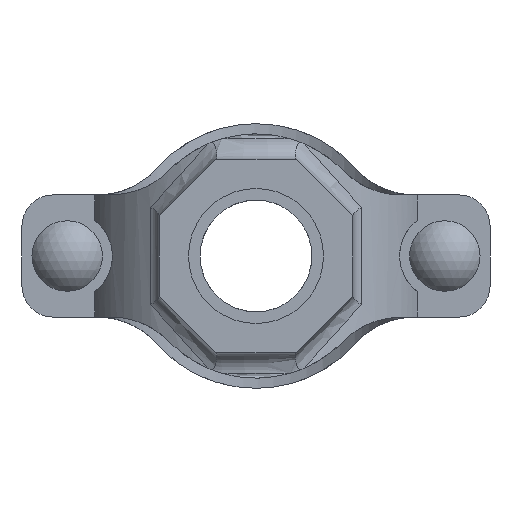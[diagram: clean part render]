
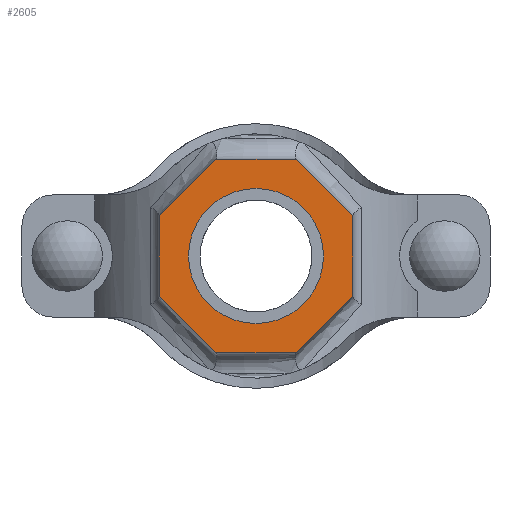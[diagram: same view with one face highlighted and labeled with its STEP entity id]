
A CAD part, front view. The second image highlights one B-rep face of the part: STEP entity #2605.
In plain terms, the highlighted planar face has unit normal (0, -1, 0) as drawn and (0, 1, 0) by its records, which use the part's own axes.
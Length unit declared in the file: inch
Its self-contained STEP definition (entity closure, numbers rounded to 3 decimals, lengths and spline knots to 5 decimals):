
#200=FACE_BOUND('',#475,.T.);
#321=FACE_OUTER_BOUND('',#474,.T.);
#474=EDGE_LOOP('',(#2173,#2174,#2175,#2176,#2177,#2178,#2179,#2180));
#475=EDGE_LOOP('',(#2181));
#615=LINE('',#4864,#801);
#618=LINE('',#4869,#804);
#620=LINE('',#4873,#806);
#622=LINE('',#4877,#808);
#654=LINE('',#5194,#840);
#656=LINE('',#5198,#842);
#658=LINE('',#5202,#844);
#660=LINE('',#5205,#846);
#801=VECTOR('',#3362,0.3937);
#804=VECTOR('',#3367,0.3937);
#806=VECTOR('',#3371,0.3937);
#808=VECTOR('',#3375,0.3937);
#840=VECTOR('',#3489,0.3937);
#842=VECTOR('',#3493,0.3937);
#844=VECTOR('',#3497,0.3937);
#846=VECTOR('',#3501,0.3937);
#936=CIRCLE('',#2871,0.83);
#1132=VERTEX_POINT('',#4861);
#1133=VERTEX_POINT('',#4863);
#1134=VERTEX_POINT('',#4867);
#1135=VERTEX_POINT('',#4871);
#1136=VERTEX_POINT('',#4875);
#1157=VERTEX_POINT('',#5022);
#1180=VERTEX_POINT('',#5193);
#1181=VERTEX_POINT('',#5197);
#1182=VERTEX_POINT('',#5201);
#1454=EDGE_CURVE('',#1133,#1132,#615,.T.);
#1457=EDGE_CURVE('',#1132,#1134,#618,.T.);
#1459=EDGE_CURVE('',#1134,#1135,#620,.T.);
#1461=EDGE_CURVE('',#1135,#1136,#622,.T.);
#1492=EDGE_CURVE('',#1157,#1157,#936,.T.);
#1523=EDGE_CURVE('',#1180,#1133,#654,.T.);
#1525=EDGE_CURVE('',#1181,#1180,#656,.T.);
#1527=EDGE_CURVE('',#1182,#1181,#658,.T.);
#1529=EDGE_CURVE('',#1136,#1182,#660,.T.);
#2173=ORIENTED_EDGE('',*,*,#1529,.T.);
#2174=ORIENTED_EDGE('',*,*,#1527,.T.);
#2175=ORIENTED_EDGE('',*,*,#1525,.T.);
#2176=ORIENTED_EDGE('',*,*,#1523,.T.);
#2177=ORIENTED_EDGE('',*,*,#1454,.T.);
#2178=ORIENTED_EDGE('',*,*,#1457,.T.);
#2179=ORIENTED_EDGE('',*,*,#1459,.T.);
#2180=ORIENTED_EDGE('',*,*,#1461,.T.);
#2181=ORIENTED_EDGE('',*,*,#1492,.T.);
#2341=PLANE('',#2892);
#2605=ADVANCED_FACE('',(#321,#200),#2341,.T.);
#2871=AXIS2_PLACEMENT_3D('',#5023,#3439,#3440);
#2892=AXIS2_PLACEMENT_3D('',#5206,#3502,#3503);
#3362=DIRECTION('',(0.,0.,1.));
#3367=DIRECTION('',(0.707,0.,0.707));
#3371=DIRECTION('',(1.,0.,0.));
#3375=DIRECTION('',(0.707,0.,-0.707));
#3439=DIRECTION('center_axis',(0.,-1.,0.));
#3440=DIRECTION('ref_axis',(-1.,0.,0.));
#3489=DIRECTION('',(-0.707,0.,0.707));
#3493=DIRECTION('',(-1.,0.,0.));
#3497=DIRECTION('',(-0.707,0.,-0.707));
#3501=DIRECTION('',(0.,0.,-1.));
#3502=DIRECTION('center_axis',(0.,1.,0.));
#3503=DIRECTION('ref_axis',(0.,0.,1.));
#4861=CARTESIAN_POINT('',(-1.19,3.25,0.49291));
#4863=CARTESIAN_POINT('',(-1.19,3.25,-0.49291));
#4864=CARTESIAN_POINT('',(-1.19,3.25,0.49291));
#4867=CARTESIAN_POINT('',(-0.49291,3.25,1.19));
#4869=CARTESIAN_POINT('',(-0.49291,3.25,1.19));
#4871=CARTESIAN_POINT('',(0.49291,3.25,1.19));
#4873=CARTESIAN_POINT('',(0.49291,3.25,1.19));
#4875=CARTESIAN_POINT('',(1.19,3.25,0.49291));
#4877=CARTESIAN_POINT('',(1.19,3.25,0.49291));
#5022=CARTESIAN_POINT('',(0.83,3.25,0.));
#5023=CARTESIAN_POINT('Origin',(0.,3.25,0.));
#5193=CARTESIAN_POINT('',(-0.49291,3.25,-1.19));
#5194=CARTESIAN_POINT('',(-1.19,3.25,-0.49291));
#5197=CARTESIAN_POINT('',(0.49291,3.25,-1.19));
#5198=CARTESIAN_POINT('',(-0.49291,3.25,-1.19));
#5201=CARTESIAN_POINT('',(1.19,3.25,-0.49291));
#5202=CARTESIAN_POINT('',(0.49291,3.25,-1.19));
#5205=CARTESIAN_POINT('',(1.19,3.25,-0.49291));
#5206=CARTESIAN_POINT('Origin',(0.,3.25,0.));
